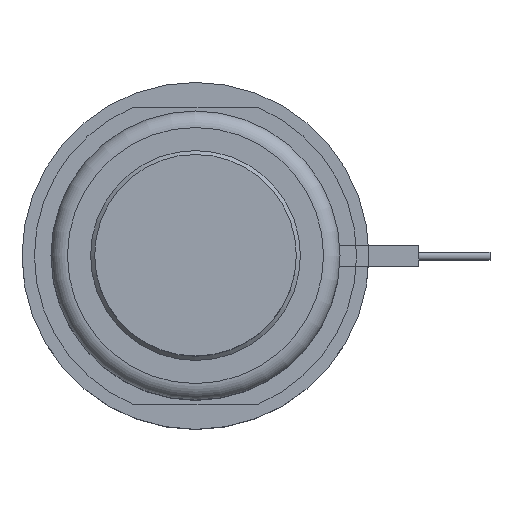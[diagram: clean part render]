
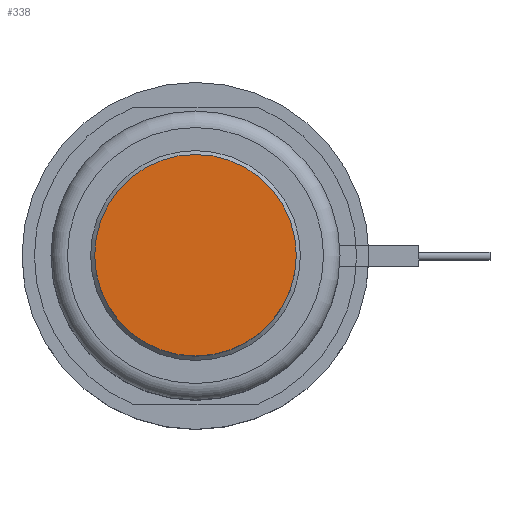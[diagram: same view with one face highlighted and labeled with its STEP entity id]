
A CAD part, top view. The second image highlights one B-rep face of the part: STEP entity #338.
In plain terms, the highlighted planar face has unit normal (0, 0, 1).
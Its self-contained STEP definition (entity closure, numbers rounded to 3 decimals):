
#338=ADVANCED_FACE('',(#530),#392,.F.);
#392=PLANE('',#1397);
#530=FACE_OUTER_BOUND('',#653,.T.);
#653=EDGE_LOOP('',(#901));
#901=ORIENTED_EDGE('',*,*,#1166,.F.);
#1036=VERTEX_POINT('',#2179);
#1166=EDGE_CURVE('',#1036,#1036,#1251,.T.);
#1251=CIRCLE('',#1396,12.2);
#1396=AXIS2_PLACEMENT_3D('',#2178,#1733,#1734);
#1397=AXIS2_PLACEMENT_3D('',#2180,#1735,#1736);
#1733=DIRECTION('',(0.,0.,-1.));
#1734=DIRECTION('',(-1.,0.,0.));
#1735=DIRECTION('',(0.,0.,-1.));
#1736=DIRECTION('',(-1.,0.,0.));
#2178=CARTESIAN_POINT('',(0.,0.,18.));
#2179=CARTESIAN_POINT('',(-12.2,0.,18.));
#2180=CARTESIAN_POINT('',(0.,0.,18.));
